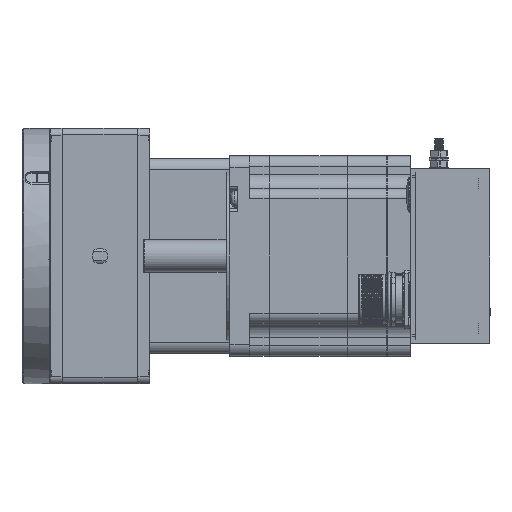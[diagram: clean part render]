
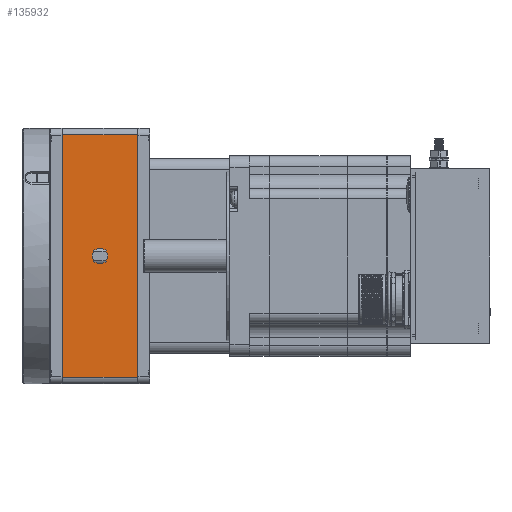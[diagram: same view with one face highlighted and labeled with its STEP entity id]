
A CAD part, left-side view. The second image highlights one B-rep face of the part: STEP entity #135932.
In plain terms, the highlighted planar face has unit normal (-1, 0, 0).
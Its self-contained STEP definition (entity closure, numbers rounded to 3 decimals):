
#2577 = EDGE_CURVE ( 'NONE', #41748, #84740, #12583, .T. ) ;
#5408 = CARTESIAN_POINT ( 'NONE',  ( -143., 5.4, -55. ) ) ;
#12583 = LINE ( 'NONE', #56519, #68671 ) ;
#12647 = FACE_OUTER_BOUND ( 'NONE', #94438, .T. ) ;
#14933 = ORIENTED_EDGE ( 'NONE', *, *, #55281, .F. ) ;
#17360 = CARTESIAN_POINT ( 'NONE',  ( -143., 5.4, -52. ) ) ;
#17494 = LINE ( 'NONE', #5408, #73895 ) ;
#18429 = DIRECTION ( 'NONE',  ( 0., 0., 1. ) ) ;
#20534 = AXIS2_PLACEMENT_3D ( 'NONE', #96654, #47524, #117196 ) ;
#20687 = CARTESIAN_POINT ( 'NONE',  ( -143., 5.4, 52. ) ) ;
#21460 = CARTESIAN_POINT ( 'NONE',  ( -143., 21.5, 0. ) ) ;
#22528 = DIRECTION ( 'NONE',  ( 0., 0., 1. ) ) ;
#26692 = DIRECTION ( 'NONE',  ( 0., 0., -1. ) ) ;
#27074 = DIRECTION ( 'NONE',  ( 0., -1., 0. ) ) ;
#35270 = AXIS2_PLACEMENT_3D ( 'NONE', #21460, #102446, #18429 ) ;
#37654 = EDGE_CURVE ( 'NONE', #41748, #46014, #121672, .T. ) ;
#41748 = VERTEX_POINT ( 'NONE', #120087 ) ;
#46014 = VERTEX_POINT ( 'NONE', #17360 ) ;
#46199 = CARTESIAN_POINT ( 'NONE',  ( -143., 21.5, 3.4 ) ) ;
#47524 = DIRECTION ( 'NONE',  ( 1., 0., 0. ) ) ;
#55090 = EDGE_CURVE ( 'NONE', #69639, #69639, #71553, .T. ) ;
#55281 = EDGE_CURVE ( 'NONE', #76042, #46014, #17494, .T. ) ;
#56519 = CARTESIAN_POINT ( 'NONE',  ( -143., 37.6, -55. ) ) ;
#59594 = FACE_BOUND ( 'NONE', #143367, .T. ) ;
#63934 = CARTESIAN_POINT ( 'NONE',  ( -143., 43., 52. ) ) ;
#64694 = DIRECTION ( 'NONE',  ( 0., 1., 0. ) ) ;
#68671 = VECTOR ( 'NONE', #22528, 1000. ) ;
#69639 = VERTEX_POINT ( 'NONE', #46199 ) ;
#70062 = ORIENTED_EDGE ( 'NONE', *, *, #37654, .T. ) ;
#71553 = CIRCLE ( 'NONE', #35270, 3.4 ) ;
#73895 = VECTOR ( 'NONE', #26692, 1000. ) ;
#76042 = VERTEX_POINT ( 'NONE', #20687 ) ;
#84740 = VERTEX_POINT ( 'NONE', #118619 ) ;
#85344 = EDGE_CURVE ( 'NONE', #76042, #84740, #120032, .T. ) ;
#94438 = EDGE_LOOP ( 'NONE', ( #14933, #138854, #110770, #70062 ) ) ;
#95896 = PLANE ( 'NONE',  #20534 ) ;
#96436 = ORIENTED_EDGE ( 'NONE', *, *, #55090, .F. ) ;
#96654 = CARTESIAN_POINT ( 'NONE',  ( -143., 43., -55. ) ) ;
#98496 = VECTOR ( 'NONE', #64694, 1000. ) ;
#102446 = DIRECTION ( 'NONE',  ( -1., 0., 0. ) ) ;
#110770 = ORIENTED_EDGE ( 'NONE', *, *, #2577, .F. ) ;
#117196 = DIRECTION ( 'NONE',  ( 0., 0., -1. ) ) ;
#118619 = CARTESIAN_POINT ( 'NONE',  ( -143., 37.6, 52. ) ) ;
#120032 = LINE ( 'NONE', #63934, #98496 ) ;
#120087 = CARTESIAN_POINT ( 'NONE',  ( -143., 37.6, -52. ) ) ;
#121672 = LINE ( 'NONE', #130785, #129552 ) ;
#129552 = VECTOR ( 'NONE', #27074, 1000. ) ;
#130785 = CARTESIAN_POINT ( 'NONE',  ( -143., 43., -52. ) ) ;
#135932 = ADVANCED_FACE ( 'NONE', ( #59594, #12647 ), #95896, .F. ) ;
#138854 = ORIENTED_EDGE ( 'NONE', *, *, #85344, .T. ) ;
#143367 = EDGE_LOOP ( 'NONE', ( #96436 ) ) ;
